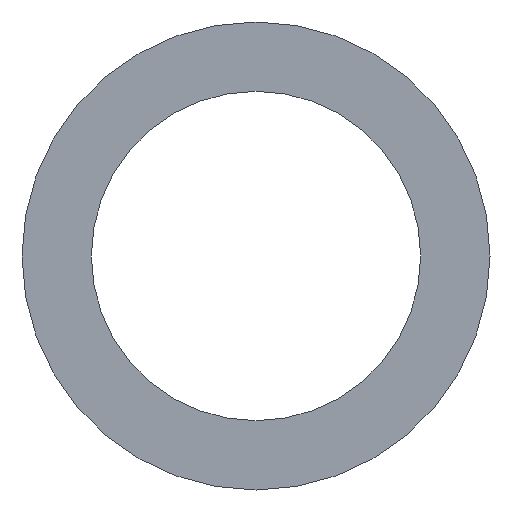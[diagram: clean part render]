
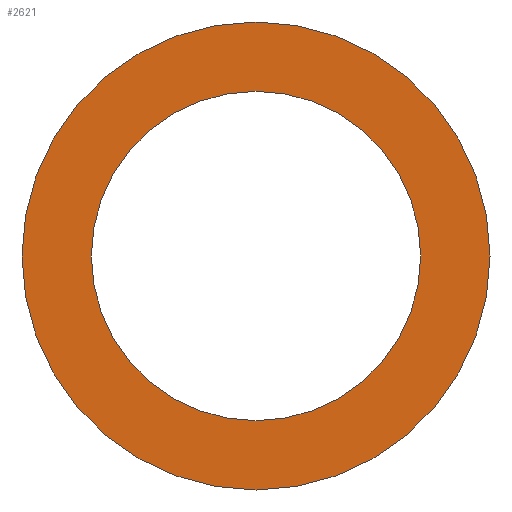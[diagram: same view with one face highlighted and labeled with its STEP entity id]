
A CAD part, front view. The second image highlights one B-rep face of the part: STEP entity #2621.
In plain terms, the highlighted planar face has unit normal (0, -1, 0).
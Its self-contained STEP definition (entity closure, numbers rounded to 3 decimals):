
#73 = ORIENTED_EDGE ( 'NONE', *, *, #561, .F. ) ;
#132 = AXIS2_PLACEMENT_3D ( 'NONE', #2988, #902, #3338 ) ;
#179 = DIRECTION ( 'NONE',  ( 0., 0., -1. ) ) ;
#247 = DIRECTION ( 'NONE',  ( 0., 0., -1. ) ) ;
#561 = EDGE_CURVE ( 'NONE', #4508, #1487, #1016, .T. ) ;
#594 = DIRECTION ( 'NONE',  ( 0., 0., -1. ) ) ;
#837 = DIRECTION ( 'NONE',  ( 0., 0., 1. ) ) ;
#867 = PLANE ( 'NONE',  #1500 ) ;
#902 = DIRECTION ( 'NONE',  ( 0., -1., 0. ) ) ;
#1016 = CIRCLE ( 'NONE', #132, 47.5 ) ;
#1041 = CIRCLE ( 'NONE', #1456, 47.5 ) ;
#1264 = VERTEX_POINT ( 'NONE', #4386 ) ;
#1289 = CARTESIAN_POINT ( 'NONE',  ( 0., -20., 0. ) ) ;
#1301 = EDGE_CURVE ( 'NONE', #1264, #4245, #3008, .T. ) ;
#1456 = AXIS2_PLACEMENT_3D ( 'NONE', #2614, #2241, #179 ) ;
#1487 = VERTEX_POINT ( 'NONE', #3830 ) ;
#1500 = AXIS2_PLACEMENT_3D ( 'NONE', #1848, #3973, #837 ) ;
#1591 = EDGE_LOOP ( 'NONE', ( #4030, #73 ) ) ;
#1724 = CARTESIAN_POINT ( 'NONE',  ( 0., -20., 47.5 ) ) ;
#1848 = CARTESIAN_POINT ( 'NONE',  ( 0., -20., 47.5 ) ) ;
#1876 = EDGE_LOOP ( 'NONE', ( #3224, #4058 ) ) ;
#2036 = CARTESIAN_POINT ( 'NONE',  ( 0., -20., 0. ) ) ;
#2241 = DIRECTION ( 'NONE',  ( 0., -1., 0. ) ) ;
#2335 = AXIS2_PLACEMENT_3D ( 'NONE', #2036, #3067, #594 ) ;
#2501 = CIRCLE ( 'NONE', #3576, 67.5 ) ;
#2614 = CARTESIAN_POINT ( 'NONE',  ( 0., -20., 0. ) ) ;
#2621 = ADVANCED_FACE ( 'NONE', ( #4200, #4407 ), #867, .F. ) ;
#2881 = EDGE_CURVE ( 'NONE', #4245, #1264, #2501, .T. ) ;
#2988 = CARTESIAN_POINT ( 'NONE',  ( 0., -20., 0. ) ) ;
#3008 = CIRCLE ( 'NONE', #2335, 67.5 ) ;
#3067 = DIRECTION ( 'NONE',  ( 0., -1., 0. ) ) ;
#3224 = ORIENTED_EDGE ( 'NONE', *, *, #2881, .T. ) ;
#3338 = DIRECTION ( 'NONE',  ( 0., 0., -1. ) ) ;
#3512 = CARTESIAN_POINT ( 'NONE',  ( 0., -20., -67.5 ) ) ;
#3576 = AXIS2_PLACEMENT_3D ( 'NONE', #1289, #3772, #247 ) ;
#3603 = EDGE_CURVE ( 'NONE', #1487, #4508, #1041, .T. ) ;
#3772 = DIRECTION ( 'NONE',  ( 0., -1., 0. ) ) ;
#3830 = CARTESIAN_POINT ( 'NONE',  ( 0., -20., -47.5 ) ) ;
#3973 = DIRECTION ( 'NONE',  ( 0., 1., 0. ) ) ;
#4030 = ORIENTED_EDGE ( 'NONE', *, *, #3603, .F. ) ;
#4058 = ORIENTED_EDGE ( 'NONE', *, *, #1301, .T. ) ;
#4200 = FACE_BOUND ( 'NONE', #1591, .T. ) ;
#4245 = VERTEX_POINT ( 'NONE', #3512 ) ;
#4386 = CARTESIAN_POINT ( 'NONE',  ( 0., -20., 67.5 ) ) ;
#4407 = FACE_OUTER_BOUND ( 'NONE', #1876, .T. ) ;
#4508 = VERTEX_POINT ( 'NONE', #1724 ) ;
